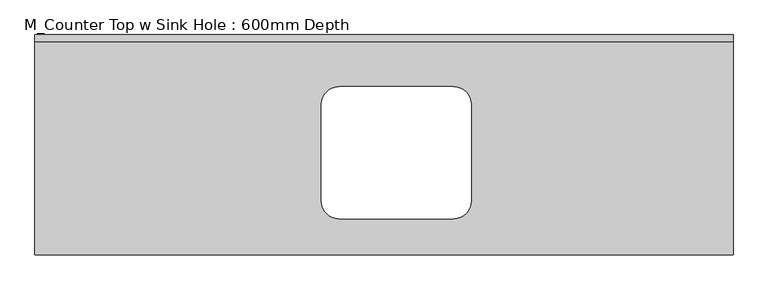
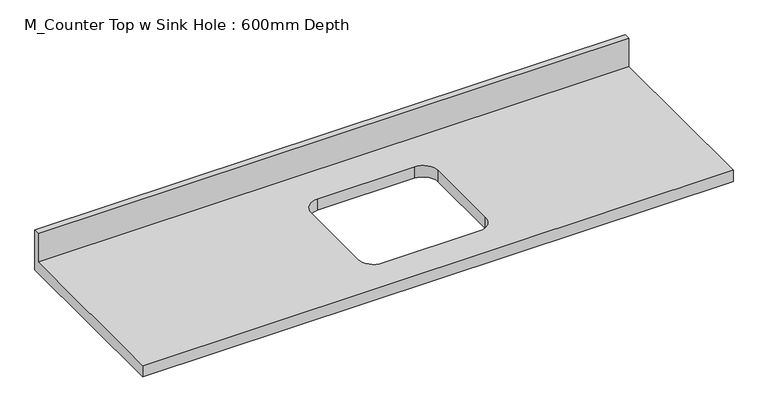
"""IFC4 building model written with IfcOpenShell, lengths in millimetres: furniture geometry, M_Counter Top w Sink Hole : 600mm Depth."""

from ifc_helpers import new_model, si_unit, frame, origin, place, context, project, spatial, polyline, circle_curve, source, transform, mapped, element, save
from ifc_brep_helpers import plane_surface, revolved_surface, advanced_brep


def m_counter_top_w_sink_hole_600mm_depth_0a237b63(model_context):
    return source(origin(), model_context, "Body", "AdvancedBrep", [
        advanced_brep(
        [(-1200.4622951, -625.0, 900.0), (779.5377049, -625.0, 900.0), (779.5377049, -19.05, 900.0), (-1200.4622951, -19.05, 900.0), (-337.3622951, -147.3, 900.0), (-13.5622951, -147.3, 900.0), (37.2377049, -198.1, 900.0), (37.2377049, -471.9, 900.0), (-13.5622951, -522.7, 900.0), (-337.3622951, -522.7, 900.0), (-388.1622951, -471.9, 900.0), (-388.1622951, -198.1, 900.0), (779.5377049, 0.0, 860.0), (779.5377049, -625.0, 860.0), (-1200.4622951, -625.0, 860.0), (-1200.4622951, 0.0, 860.0), (-13.5622951, -147.3, 860.0), (-337.3622951, -147.3, 860.0), (-388.1622951, -198.1, 860.0), (-388.1622951, -471.9, 860.0), (-337.3622951, -522.7, 860.0), (-13.5622951, -522.7, 860.0), (37.2377049, -471.9, 860.0), (37.2377049, -198.1, 860.0), (-1200.4622951, 0.0, 1001.6), (779.5377049, 0.0, 1001.6), (-1200.4622951, -19.05, 1001.6), (779.5377049, -19.05, 1001.6)],
        [
            (0, 1),
            (1, 2),
            (2, 3),
            (3, 0),
            (4, 5),
            (5, 6, circle_curve(frame((-13.5622951, -198.1, 900.0), z_axis=(0.0, 0.0, -1.0), x_axis=(1.0, 0.0, 0.0)), 50.8)),
            (6, 7),
            (7, 8, circle_curve(frame((-13.5622951, -471.9, 900.0), z_axis=(0.0, 0.0, -1.0), x_axis=(1.0, 0.0, 0.0)), 50.8)),
            (8, 9),
            (9, 10, circle_curve(frame((-337.3622951, -471.9, 900.0), z_axis=(0.0, 0.0, -1.0), x_axis=(1.0, 0.0, 0.0)), 50.8)),
            (10, 11),
            (11, 4, circle_curve(frame((-337.3622951, -198.1, 900.0), z_axis=(0.0, 0.0, -1.0), x_axis=(1.0, 0.0, 0.0)), 50.8)),
            (12, 13),
            (13, 14),
            (14, 15),
            (15, 12),
            (16, 17),
            (17, 18, circle_curve(frame((-337.3622951, -198.1, 860.0), z_axis=(0.0, 0.0, 1.0), x_axis=(1.0, 0.0, 0.0)), 50.8)),
            (18, 19),
            (19, 20, circle_curve(frame((-337.3622951, -471.9, 860.0), z_axis=(0.0, 0.0, 1.0), x_axis=(1.0, 0.0, 0.0)), 50.8)),
            (20, 21),
            (21, 22, circle_curve(frame((-13.5622951, -471.9, 860.0), z_axis=(0.0, 0.0, 1.0), x_axis=(1.0, 0.0, 0.0)), 50.8)),
            (22, 23),
            (23, 16, circle_curve(frame((-13.5622951, -198.1, 860.0), z_axis=(0.0, 0.0, 1.0), x_axis=(1.0, 0.0, 0.0)), 50.8)),
            (15, 24),
            (24, 25),
            (25, 12),
            (14, 0),
            (3, 26),
            (26, 24),
            (13, 1),
            (25, 27),
            (27, 2),
            (26, 27),
            (4, 17),
            (16, 5),
            (11, 18),
            (10, 19),
            (9, 20),
            (8, 21),
            (7, 22),
            (6, 23),
        ],
        [
            plane_surface(frame((-1200.4622951, 0.0, 900.0), z_axis=(0.0, 0.0, 1.0), x_axis=(-1.0, 0.0, 0.0))),
            plane_surface(frame((-1200.4622951, 0.0, 860.0), z_axis=(0.0, 0.0, -1.0), x_axis=(1.0, 0.0, 0.0))),
            plane_surface(frame((779.5377049, 0.0, 900.0), z_axis=(0.0, 1.0, 0.0), x_axis=(0.0, 0.0, -1.0))),
            plane_surface(frame((-1200.4622951, 0.0, 900.0), z_axis=(-1.0, 0.0, 0.0), x_axis=(0.0, 0.0, -1.0))),
            plane_surface(frame((-1200.4622951, -625.0, 900.0), z_axis=(0.0, -1.0, 0.0), x_axis=(0.0, 0.0, -1.0))),
            plane_surface(frame((779.5377049, -625.0, 900.0), z_axis=(1.0, 0.0, 0.0), x_axis=(0.0, 0.0, -1.0))),
            plane_surface(frame((-1200.4622951, 0.0, 1001.6), z_axis=(0.0, 0.0, 1.0), x_axis=(0.0, -1.0, 0.0))),
            plane_surface(frame((-1200.4622951, -19.05, 1001.6), z_axis=(0.0, -1.0, 0.0), x_axis=(0.0, 0.0, -1.0))),
            plane_surface(frame((-13.5622951, -147.3, 900.0), z_axis=(0.0, -1.0, 0.0), x_axis=(0.0, 0.0, -1.0))),
            revolved_surface(polyline([(-286.5622951, -198.1, 900.0), (-286.5622951, -198.1, 860.0)]), (-337.3622951, -198.1, 860.0), (0.0, 0.0, 1.0)),
            plane_surface(frame((-388.1622951, -198.1, 900.0), z_axis=(1.0, 0.0, 0.0), x_axis=(0.0, 0.0, -1.0))),
            revolved_surface(polyline([(-286.5622951, -471.9, 900.0), (-286.5622951, -471.9, 860.0)]), (-337.3622951, -471.9, 860.0), (0.0, 0.0, 1.0)),
            plane_surface(frame((-337.3622951, -522.7, 900.0), z_axis=(0.0, 1.0, 0.0), x_axis=(0.0, 0.0, -1.0))),
            revolved_surface(polyline([(37.2377049, -471.9, 900.0), (37.2377049, -471.9, 860.0)]), (-13.5622951, -471.9, 860.0), (0.0, 0.0, 1.0)),
            plane_surface(frame((37.2377049, -471.9, 900.0), z_axis=(-1.0, 0.0, 0.0), x_axis=(0.0, 0.0, -1.0))),
            revolved_surface(polyline([(37.2377049, -198.1, 900.0), (37.2377049, -198.1, 860.0)]), (-13.5622951, -198.1, 860.0), (0.0, 0.0, 1.0)),
        ],
        [
            (0, [[1, 2, 3, 4], [5, 6, 7, 8, 9, 10, 11, 12]]),
            (1, [[13, 14, 15, 16], [17, 18, 19, 20, 21, 22, 23, 24]]),
            (2, [[-16, 25, 26, 27]]),
            (3, [[-15, 28, -4, 29, 30, -25]]),
            (4, [[-1, -28, -14, 31]]),
            (5, [[-13, -27, 32, 33, -2, -31]]),
            (6, [[-30, 34, -32, -26]]),
            (7, [[-34, -29, -3, -33]]),
            (8, [[35, -17, 36, -5]]),
            (9, [[-35, -12, 37, -18]]),
            (10, [[-37, -11, 38, -19]]),
            (11, [[-38, -10, 39, -20]]),
            (12, [[-39, -9, 40, -21]]),
            (13, [[-40, -8, 41, -22]]),
            (14, [[-41, -7, 42, -23]]),
            (15, [[-36, -24, -42, -6]]),
        ],
    ),
    ])


if __name__ == "__main__":
    model = new_model("IFC4")
    model_context = context("Model", 3, world=origin())
    ifc_project = project(units=[si_unit("LENGTHUNIT", "METRE", prefix="MILLI")], contexts=[model_context])
    site = spatial("IfcSite", under=ifc_project)
    building = spatial("IfcBuilding", under=site)
    placement = place(None, origin())
    m_counter_top_w_sink_hole_600mm_depth_shape = m_counter_top_w_sink_hole_600mm_depth_0a237b63(model_context)
    element("IfcFurniture", 1, ObjectType="M_Counter Top w Sink Hole : 600mm Depth", at=placement, inside=building, context=model_context, shape_type="MappedRepresentation", body=[
        mapped(m_counter_top_w_sink_hole_600mm_depth_shape, transform((0.0, 0.0, 0.0), x_axis=(1.0, 0.0, 0.0), y_axis=(0.0, 1.0, 0.0), z_axis=(0.0, 0.0, 1.0))),
    ])
    save(model, "model.ifc")
